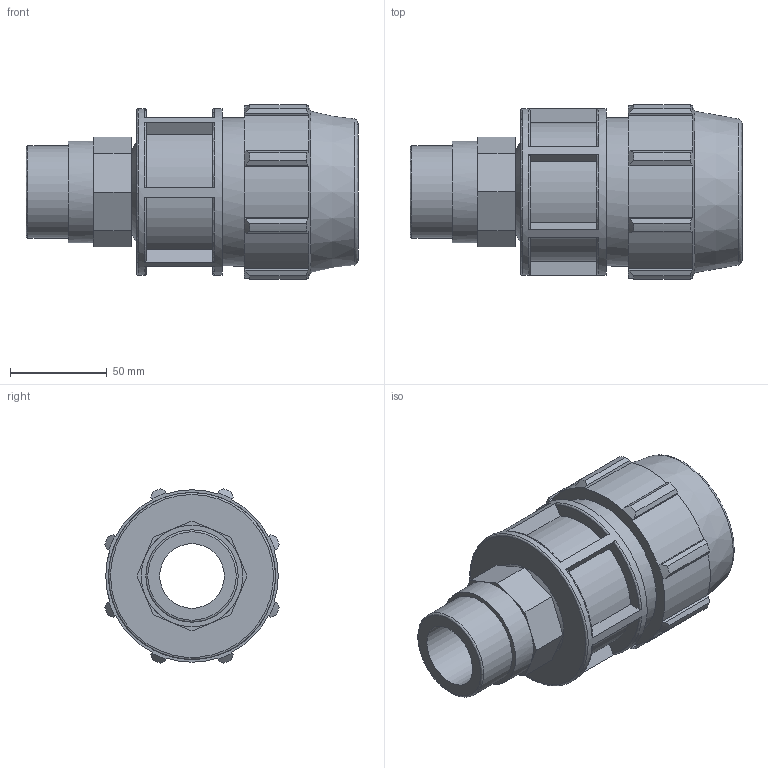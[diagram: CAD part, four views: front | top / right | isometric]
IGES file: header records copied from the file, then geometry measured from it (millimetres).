
Global section: file name: 077200050015_187200050015_0772060500150A.ipt; native system: Autodesk Inventor 2015; preprocessor: unknown; author: KIM; date: 20170606.174304; units: millimetre
Bounding box: 172 x 90.33 x 90.33 mm (x, y, z)
Volume: 442353.7 mm3; surface area: 83324.2 mm2
Topology: 1 solids, 1 shells, 137 faces, 367 edges, 244 vertices
Faces by surface type: plane 81, cylinder 26, revolution 19, cone 11
Full cylindrical faces by diameter (mm): 47.803 x1, 52.583 x1, 76.8 x1, 86.4 x1
